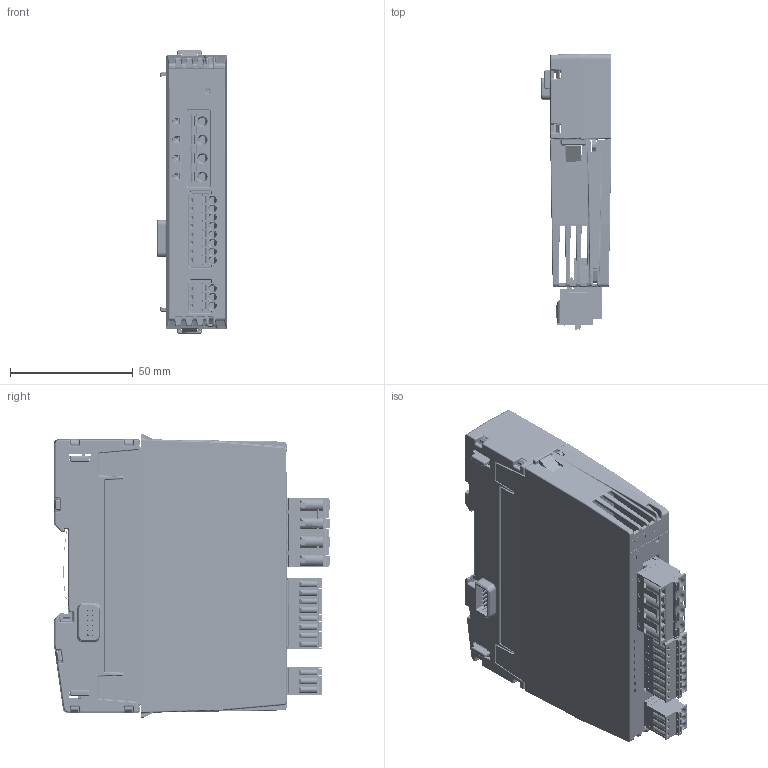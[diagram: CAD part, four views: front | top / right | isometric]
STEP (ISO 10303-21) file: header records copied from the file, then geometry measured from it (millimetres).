
FILE_DESCRIPTION(/* description */ (''),/* implementation_level */ '2;1');
FILE_NAME(/* name */ 'C:\Users\Public\Documents\Autodesk\Inventor 2023\PM04A_Simplified+BackBB21C.stp',/* time_stamp */ '2024-10-18T22:20:53+02:00',/* author */ ('shoma'),/* organization */ (''),/* preprocessor_version */ 'ST-DEVELOPER v19',/* originating_system */ 'Autodesk Inventor 2023',/* authorisation */ '');
FILE_SCHEMA (('AUTOMOTIVE_DESIGN { 1 0 10303 214 3 1 1 }'));
Products named in the file (1): PM04A_Simplified+BackBB21C
Bounding box: 28.9 x 112.6 x 115.5 mm (x, y, z)
Volume: 135859.5 mm3; surface area: 89793.3 mm2
Topology: 8 solids, 43 shells, 8420 faces, 22520 edges, 14147 vertices
Faces by surface type: plane 5455, cylinder 2072, bspline 553, sphere 163, cone 135, torus 42
Full cylindrical faces by diameter (mm): 0.296 x2, 0.3 x36, 0.434 x1, 0.457 x2, 0.7 x36, 0.8 x6, 0.85 x24, 0.9 x8, 1.17 x11, 1.25 x11, 1.3 x11, 1.4 x8, 1.5 x4, 1.6 x9, 2.35 x2, 2.5 x1, 2.8 x3, 3 x5, 3.1 x11, 3.25 x2, 4 x4
Entity records: 285237 total; most frequent: CARTESIAN_POINT 66541, ORIENTED_EDGE 44694, DIRECTION 42432, EDGE_CURVE 22347, LINE 16374, VECTOR 16374, VERTEX_POINT 14143, AXIS2_PLACEMENT_3D 13029
